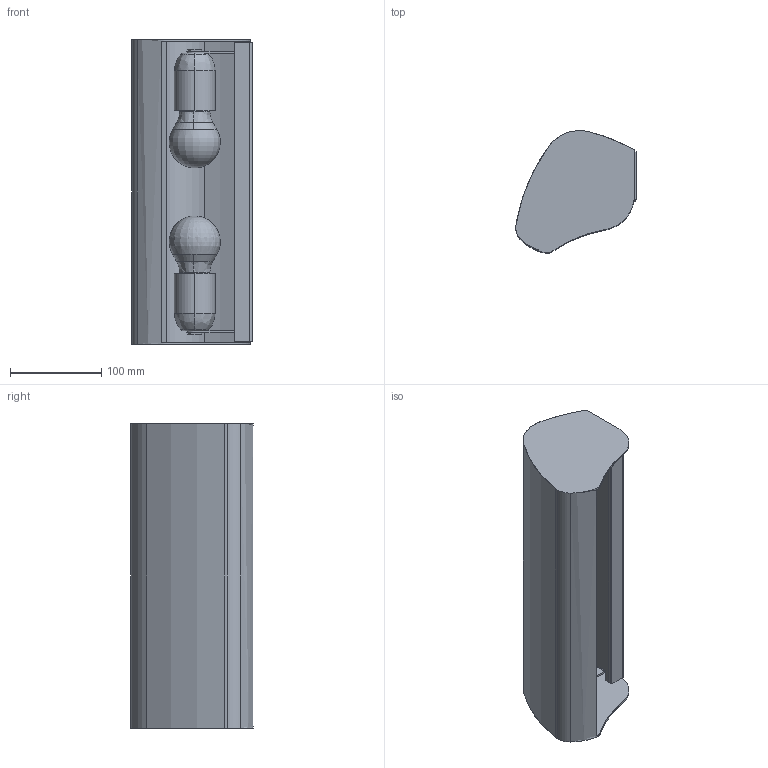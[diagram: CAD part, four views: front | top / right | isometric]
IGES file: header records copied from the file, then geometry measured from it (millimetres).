
Start section: SolidWorks IGES file using analytic representation for surfaces
Global section: file name: N:\- Ingeneria\DISEGNI\PRODOTTI\APPLIQUE RADIEUSE\Documenti\3D Semplificato\800ASREWW311_APPLIQUE RADIEUSE\800ASREWW311_APPLIQUE RADIEUSE.IGS; native system: SolidWorks 2016; preprocessor: SolidWorks 2016; author: MarcoErba; date: 220620.174432; units: millimetre
Bounding box: 132 x 133.96 x 334 mm (x, y, z)
Surface area: 465647.6 mm2 (no closed solid volume)
Topology: 0 solids, 0 shells, 1254 faces, 14776 edges, 14734 vertices
Faces by surface type: bspline 767, revolution 487
